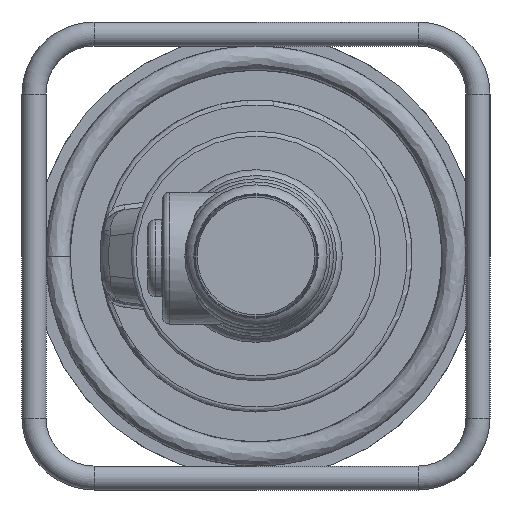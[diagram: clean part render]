
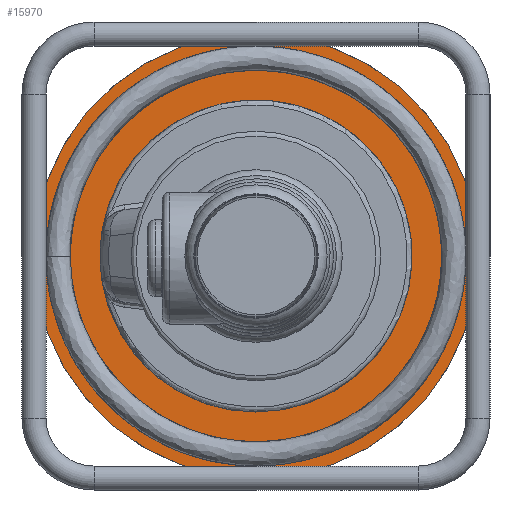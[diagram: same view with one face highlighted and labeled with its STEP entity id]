
A CAD part, left-side view. The second image highlights one B-rep face of the part: STEP entity #15970.
In plain terms, the highlighted planar face has unit normal (-1, 0, 0).
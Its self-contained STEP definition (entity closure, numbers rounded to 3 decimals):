
#495=FACE_BOUND('',#5315,.T.);
#1550=PLANE('',#16944);
#4335=FACE_OUTER_BOUND('',#5314,.T.);
#5314=EDGE_LOOP('',(#13871));
#5315=EDGE_LOOP('',(#13872));
#5816=CIRCLE('',#16921,92.5);
#5818=CIRCLE('',#16945,65.);
#7407=VERTEX_POINT('',#36128);
#7408=VERTEX_POINT('',#36154);
#9589=EDGE_CURVE('',#7407,#7407,#5816,.T.);
#9591=EDGE_CURVE('',#7408,#7408,#5818,.T.);
#13871=ORIENTED_EDGE('',*,*,#9589,.F.);
#13872=ORIENTED_EDGE('',*,*,#9591,.T.);
#15970=ADVANCED_FACE('',(#4335,#495),#1550,.T.);
#16921=AXIS2_PLACEMENT_3D('',#36130,#19740,#19741);
#16944=AXIS2_PLACEMENT_3D('',#36153,#19786,#19787);
#16945=AXIS2_PLACEMENT_3D('',#36155,#19788,#19789);
#19740=DIRECTION('center_axis',(1.,0.,0.));
#19741=DIRECTION('ref_axis',(0.,0.644,0.765));
#19786=DIRECTION('center_axis',(-1.,0.,0.));
#19787=DIRECTION('ref_axis',(0.,0.644,0.765));
#19788=DIRECTION('center_axis',(1.,0.,0.));
#19789=DIRECTION('ref_axis',(0.,0.,
1.));
#36128=CARTESIAN_POINT('',(0.,-70.782,59.55));
#36130=CARTESIAN_POINT('Origin',(0.,0.,0.));
#36153=CARTESIAN_POINT('Origin',(0.,70.782,
-59.55));
#36154=CARTESIAN_POINT('',(0.,0.,-65.));
#36155=CARTESIAN_POINT('Origin',(0.,0.,
0.));
